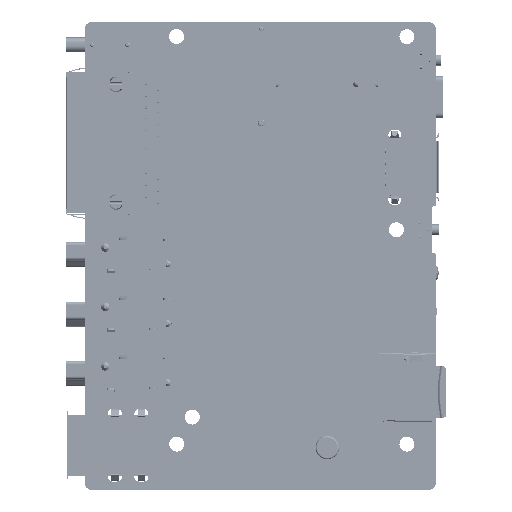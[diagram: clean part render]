
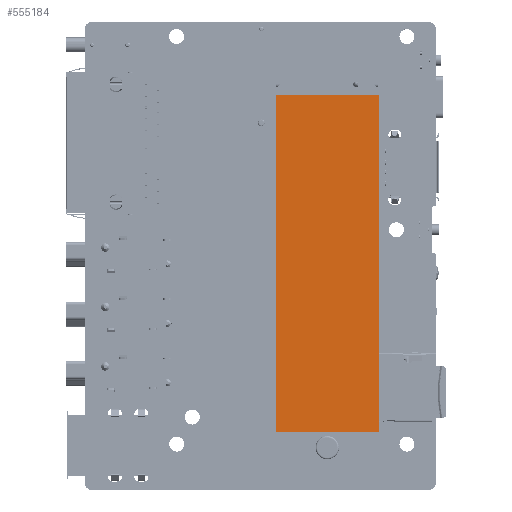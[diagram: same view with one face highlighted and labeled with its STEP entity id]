
A CAD part, top view. The second image highlights one B-rep face of the part: STEP entity #555184.
In plain terms, the highlighted planar face has unit normal (0, 0, 1).
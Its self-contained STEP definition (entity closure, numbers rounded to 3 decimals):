
#554832=DIRECTION('',(0.,1.,0.));
#554833=VECTOR('',#554832,22.);
#554834=CARTESIAN_POINT('',(-0.8,-11.,2.15));
#554835=LINE('',#554834,#554833);
#554836=DIRECTION('',(1.,0.,0.));
#554837=VECTOR('',#554836,72.);
#554838=CARTESIAN_POINT('',(-72.8,-11.,2.15));
#554839=LINE('',#554838,#554837);
#554840=DIRECTION('',(0.,-1.,0.));
#554841=VECTOR('',#554840,22.);
#554842=CARTESIAN_POINT('',(-72.8,11.,2.15));
#554843=LINE('',#554842,#554841);
#554844=DIRECTION('',(-1.,0.,0.));
#554845=VECTOR('',#554844,72.);
#554846=CARTESIAN_POINT('',(-0.8,11.,2.15));
#554847=LINE('',#554846,#554845);
#554912=CARTESIAN_POINT('',(-0.8,-11.,2.15));
#554913=CARTESIAN_POINT('',(-0.8,11.,2.15));
#554914=VERTEX_POINT('',#554912);
#554915=VERTEX_POINT('',#554913);
#554916=CARTESIAN_POINT('',(-72.8,11.,2.15));
#554917=VERTEX_POINT('',#554916);
#554918=CARTESIAN_POINT('',(-72.8,-11.,2.15));
#554919=VERTEX_POINT('',#554918);
#555173=CARTESIAN_POINT('',(0.,0.,2.15));
#555174=DIRECTION('',(0.,0.,1.));
#555175=DIRECTION('',(1.,0.,0.));
#555176=AXIS2_PLACEMENT_3D('',#555173,#555174,#555175);
#555177=PLANE('',#555176);
#555178=ORIENTED_EDGE('',*,*,#555167,.F.);
#555179=ORIENTED_EDGE('',*,*,#555115,.F.);
#555180=ORIENTED_EDGE('',*,*,#555135,.F.);
#555181=ORIENTED_EDGE('',*,*,#555149,.F.);
#555182=EDGE_LOOP('',(#555178,#555179,#555180,#555181));
#555183=FACE_OUTER_BOUND('',#555182,.F.);
#555184=ADVANCED_FACE('',(#555183),#555177,.T.);
#555115=EDGE_CURVE('',#554919,#554914,#554839,.T.);
#555135=EDGE_CURVE('',#554917,#554919,#554843,.T.);
#555149=EDGE_CURVE('',#554915,#554917,#554847,.T.);
#555167=EDGE_CURVE('',#554914,#554915,#554835,.T.);
